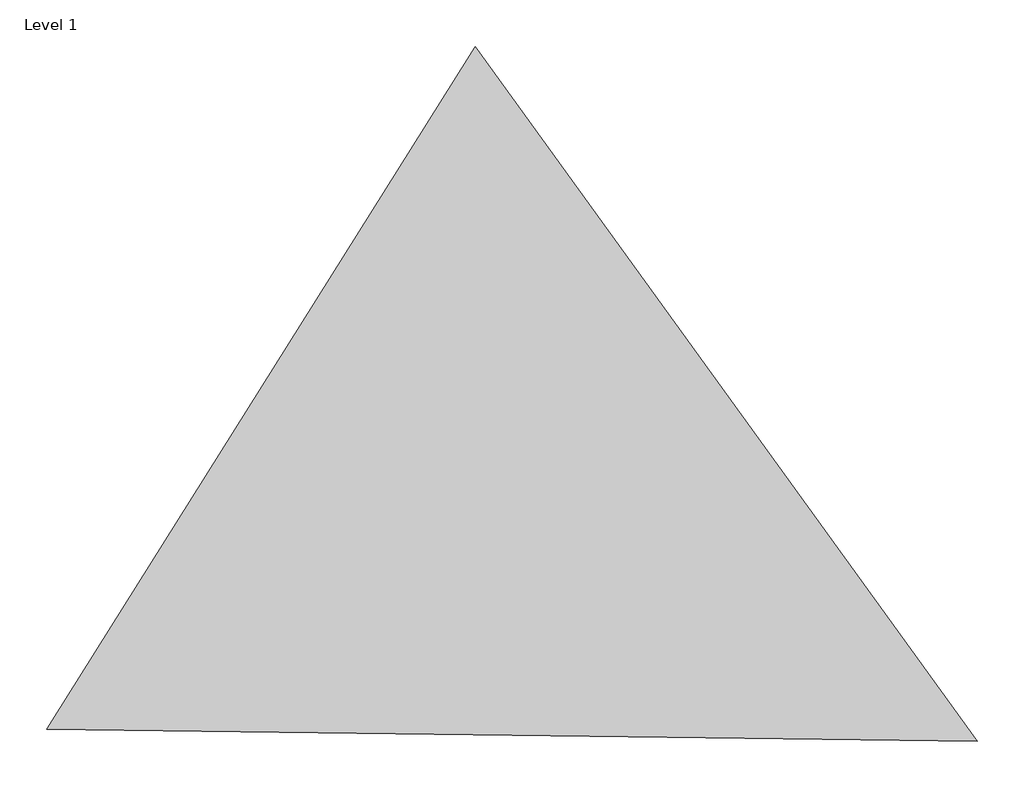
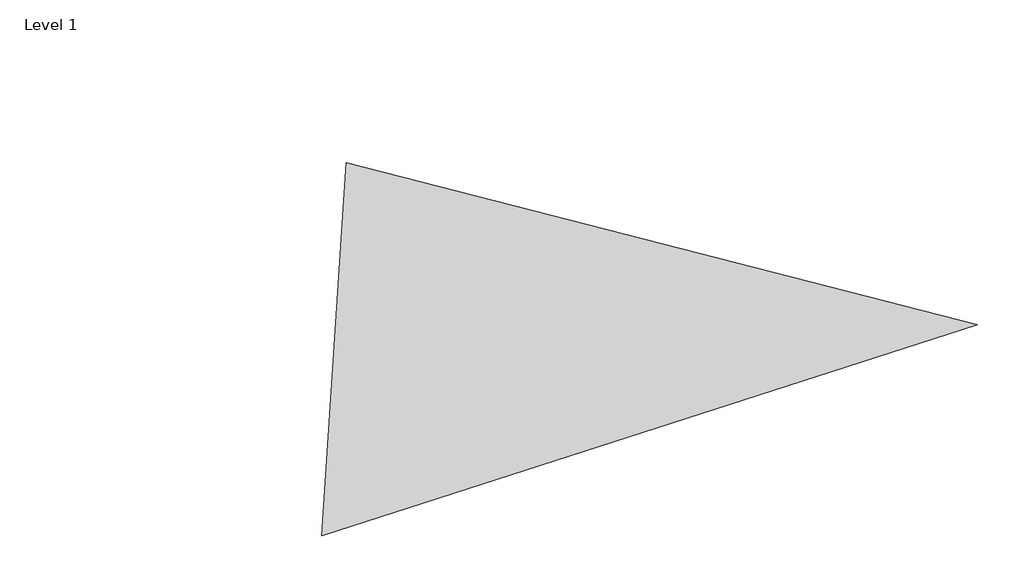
# One storey: 1 proxy.
"""IFC4 building model written with IfcOpenShell, lengths in millimetres."""

import ifcopenshell
import ifcopenshell.guid

model = None  # the IFC model being written
_history = None  # IfcOwnerHistory: only IFC2X3 demands one
_inside = {}  # id of a spatial element -> (the spatial element, [elements in it])
_under = {}  # id of a project, library or spatial element -> (it, [spatial elements below it])
_declared = {}  # id of a project -> (the project, [libraries it declares])
_typed = {}  # id of a type object -> (the type object, [elements of that type])
_made_of = {}  # id of a material, layer set ... -> (it, [elements and type objects made of it])


def new_model(schema):
    """Start an empty IFC model of exactly this schema.

    Asked for "IFC4X3", IfcOpenShell would pick the latest addendum, in which some entities
    have other attributes; the version numbers below select the first issue.
    IFC2X3 requires an IfcOwnerHistory on every rooted entity: one is made here for all.
    """
    global model, _history
    if schema == "IFC4X3":
        model = ifcopenshell.file(schema_version=(4, 3, 0, 0))
    else:
        model = ifcopenshell.file(schema=schema)
    _inside.clear()
    _under.clear()
    _declared.clear()
    _typed.clear()
    _made_of.clear()
    _history = None
    if model.schema == "IFC2X3":
        org = make("IfcOrganization", Name="unknown")
        user = make(
            "IfcPersonAndOrganization",
            ThePerson=make("IfcPerson", FamilyName="unknown"),
            TheOrganization=org,
        )
        app = make(
            "IfcApplication",
            ApplicationDeveloper=org,
            Version="unknown",
            ApplicationFullName="unknown",
            ApplicationIdentifier="unknown",
        )
        _history = make(
            "IfcOwnerHistory",
            OwningUser=user,
            OwningApplication=app,
            ChangeAction="ADDED",
            CreationDate=0,
        )
    return model


def make(cls, **values):
    """One entity of the class cls with the attributes given. An attribute that is None is left unset."""
    return model.create_entity(
        cls, **{name: value for name, value in values.items() if value is not None}
    )


def rooted(cls, **values):
    """An entity with a GlobalId (a new one), such as an element, a storey or a relation."""
    return make(cls, GlobalId=ifcopenshell.guid.new(), OwnerHistory=_history, **values)


def si_unit(unit_type, name, prefix=None):
    """IfcSIUnit, for example si_unit("LENGTHUNIT", "METRE", prefix="MILLI")."""
    return make("IfcSIUnit", UnitType=unit_type, Prefix=prefix, Name=name)


def assignment(units):
    """IfcUnitAssignment: the units of a project."""
    return None if units is None else make("IfcUnitAssignment", Units=units)


def point(xyz):
    """IfcCartesianPoint."""
    return None if xyz is None else make("IfcCartesianPoint", Coordinates=xyz)


def direction(xyz):
    """IfcDirection."""
    return None if xyz is None else make("IfcDirection", DirectionRatios=xyz)


def frame(location, z_axis=None, x_axis=None):
    """IfcAxis2Placement3D, a coordinate frame: its origin and axes. An axis left out is left unset."""
    return make(
        "IfcAxis2Placement3D",
        Location=point(location),
        Axis=direction(z_axis),
        RefDirection=direction(x_axis),
    )


def origin():
    """The frame at (0, 0, 0) with its axes left unset."""
    return frame((0.0, 0.0, 0.0))


def place(relative_to, where):
    """IfcLocalPlacement: puts the frame where relative to a parent placement (None: the world)."""
    return make(
        "IfcLocalPlacement", PlacementRelTo=relative_to, RelativePlacement=where
    )


def context(
    kind, dimensions, precision=None, world=None, true_north=None, identifier=None
):
    """IfcGeometricRepresentationContext, for example the 3D "Model" context."""
    return make(
        "IfcGeometricRepresentationContext",
        ContextIdentifier=identifier,
        ContextType=kind,
        CoordinateSpaceDimension=dimensions,
        Precision=precision,
        WorldCoordinateSystem=world,
        TrueNorth=true_north,
    )


def project(units=None, contexts=None):
    """IfcProject with its units and contexts."""
    return rooted(
        "IfcProject",
        Name="project",
        RepresentationContexts=contexts,
        UnitsInContext=assignment(units),
    )


def spatial(cls, under=None, at=None, **own):
    """A site, building, storey or space (cls), placed at a placement, below another one or the project."""
    s = rooted(cls, ObjectPlacement=at, **own)
    if under is not None:
        _under.setdefault(under.id(), (under, []))[1].append(s)
    return s


def point_list(points):
    """IfcCartesianPointList2D or 3D."""
    cls = (
        "IfcCartesianPointList2D" if len(points[0]) == 2 else "IfcCartesianPointList3D"
    )
    return make(cls, CoordList=points)


def triangles(points, corners, closed=None, point_numbers=None):
    """IfcTriangulatedFaceSet: each triangle names its three corners, points numbered from 1."""
    return make(
        "IfcTriangulatedFaceSet",
        Coordinates=point_list(points),
        Closed=closed,
        CoordIndex=corners,
        PnIndex=point_numbers,
    )


def shape(context_of_items, identifier, shape_type, items):
    """IfcShapeRepresentation: the items that make up one representation, for example the "Body"."""
    return make(
        "IfcShapeRepresentation",
        ContextOfItems=context_of_items,
        RepresentationIdentifier=identifier,
        RepresentationType=shape_type,
        Items=items,
    )


def made_of(thing, what):
    """Note that an element or type object is made of a material, layer set ...; save() writes the relation."""
    if what is not None:
        _made_of.setdefault(what.id(), (what, []))[1].append(thing)
    return thing


def element(
    cls,
    number,
    at=None,
    inside=None,
    cuts=None,
    type_object=None,
    material=None,
    context=None,
    identifier="Body",
    shape_type=None,
    held_by="IfcProductDefinitionShape",
    body=None,
    shapes=None,
    **own,
):
    """One element of the class cls, such as IfcWall. Its Tag is "e" and its number.

    at: its placement. inside: the storey or other place that contains it. cuts: it is an
    opening in that element (IfcRelVoidsElement). A single representation is given by context,
    identifier, shape_type and body (its items); several are given by shapes. held_by: the class
    of the entity that holds the representations. save() writes the other relations.
    """
    e = rooted(cls, Tag="e%d" % number, ObjectPlacement=at, **own)
    if body is not None:
        shapes = [shape(context, identifier, shape_type, body)]
    if shapes is not None:
        e.Representation = make(held_by, Representations=shapes)
    if inside is not None:
        _inside.setdefault(inside.id(), (inside, []))[1].append(e)
    if cuts is not None:
        rooted(
            "IfcRelVoidsElement", RelatingBuildingElement=cuts, RelatedOpeningElement=e
        )
    if type_object is not None:
        _typed.setdefault(type_object.id(), (type_object, []))[1].append(e)
    return made_of(e, material)


def aggregate(whole, parts):
    """IfcRelAggregates: a whole, such as a stair, and the parts it consists of."""
    return rooted("IfcRelAggregates", RelatingObject=whole, RelatedObjects=parts)


def save(model, path):
    """Write the relations noted so far, then the file.

    IfcRelAggregates (storeys below a building ...), IfcRelContainedInSpatialStructure (elements
    in a storey), IfcRelDefinesByType, IfcRelAssociatesMaterial and IfcRelDeclares: one each for
    every whole, place, type object, material and project.
    """
    for whole, parts in _under.values():
        aggregate(whole, parts)
    for where, things in _inside.values():
        rooted(
            "IfcRelContainedInSpatialStructure",
            RelatedElements=things,
            RelatingStructure=where,
        )
    for kind, things in _typed.values():
        rooted("IfcRelDefinesByType", RelatedObjects=things, RelatingType=kind)
    for what, things in _made_of.values():
        rooted("IfcRelAssociatesMaterial", RelatedObjects=things, RelatingMaterial=what)
    for by, libraries in _declared.values():
        rooted("IfcRelDeclares", RelatingContext=by, RelatedDefinitions=libraries)
    model.write(path)


model = new_model("IFC4")

# Units and contexts
model_context = context("Model", 3, world=origin())
ifc_project = project(units=[si_unit("LENGTHUNIT", "METRE", prefix="MILLI")], contexts=[model_context])

# Site, building, storey
site = spatial("IfcSite", under=ifc_project)
building = spatial("IfcBuilding", under=site)
storey = spatial("IfcBuildingStorey", under=building, Name="Level 1", Elevation=0.0)

# Proxy
placement = place(None, origin())
element("IfcBuildingElementProxy", 1, Name="Building Element Proxy", at=placement, inside=storey, context=model_context, shape_type="Tessellation", body=[
    triangles([(-1325.7783783, 15727.301651, 0.0), (-17384.1598206, -9829.0233032, 0.0), (17474.2775757, -10279.7585815, 0.0)], [[2, 3, 1]], closed=False),
])

save(model, "model.ifc")
